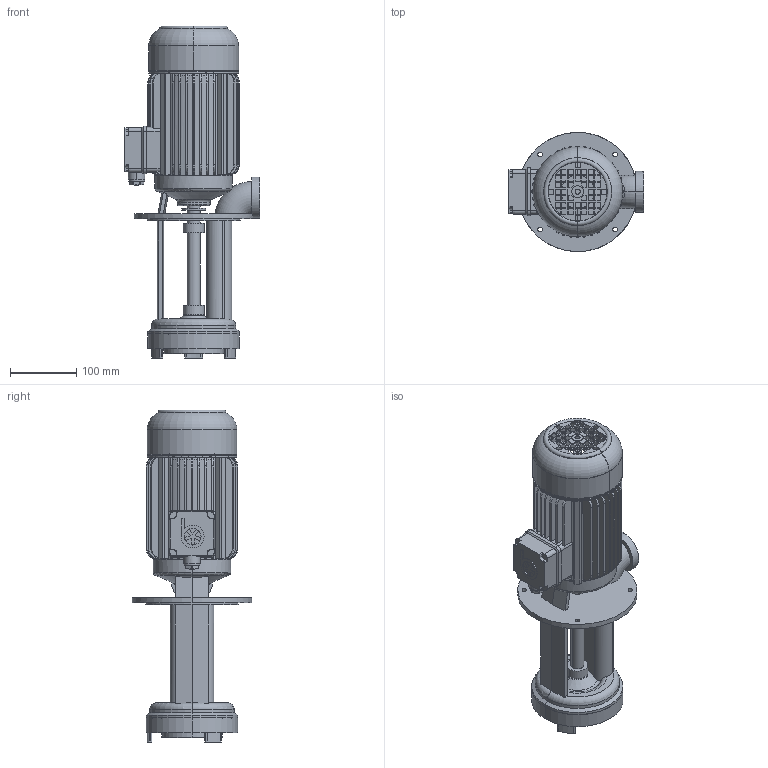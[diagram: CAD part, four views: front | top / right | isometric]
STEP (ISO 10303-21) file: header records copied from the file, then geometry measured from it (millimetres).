
FILE_DESCRIPTION(('no description'),'unknown implementation level');
FILE_NAME('TA600_210_6.stp',' ',('K. H. Brinkmann GmbH & Co. KG'),('CADClick - KiM GmbH - www.kimweb.de'),'unknown preprocess','ACIS','unknown authorization');
FILE_SCHEMA(('automotive_design'));
Length unit declared in the file: millimetre
Products named in the file (5): 1; 2; 3; 4; 5
Bounding box: 205 x 180 x 500.99 mm (x, y, z)
Volume: 3860773.9 mm3; surface area: 542168.6 mm2
Topology: 5 solids, 5 shells, 899 faces, 2472 edges, 1604 vertices
Faces by surface type: plane 460, cylinder 283, torus 112, cone 42, revolution 2
Entity records: 63583 total; most frequent: CARTESIAN_POINT 12978, STYLED_ITEM 4980, PRESENTATION_STYLE_ASSIGNMENT 4980, COLOUR_RGB 4980, ORIENTED_EDGE 4944, DIRECTION 4639, EDGE_CURVE 2472, CURVE_STYLE 2472
